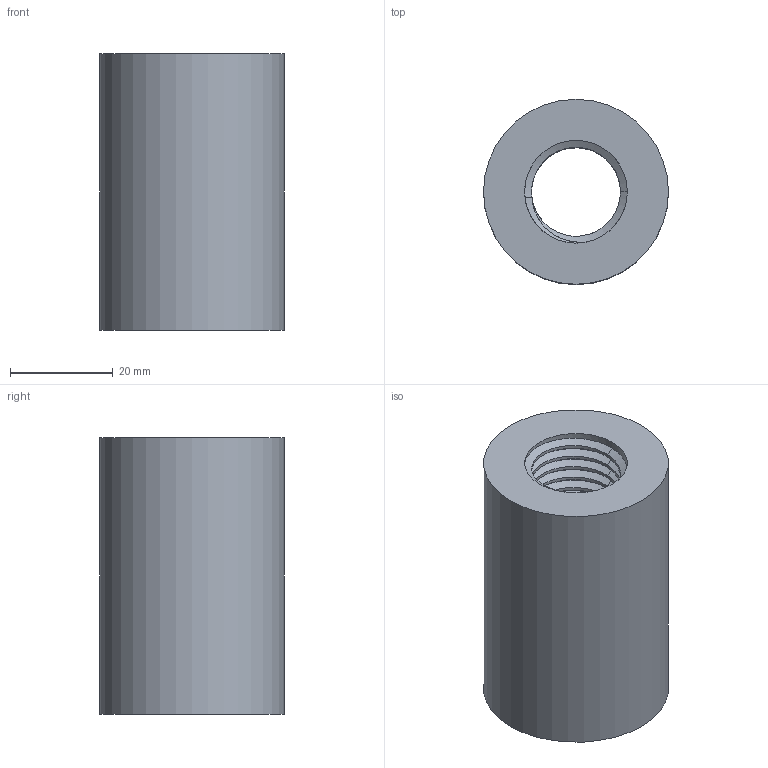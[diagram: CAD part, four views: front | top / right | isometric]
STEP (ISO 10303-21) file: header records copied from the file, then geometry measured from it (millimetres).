
FILE_DESCRIPTION(('Mechanical CAD reference from nasji.com'),'2;1');
FILE_NAME('NASJI.step','',(''),(''),'','NASJI distribution','');
FILE_SCHEMA(('AUTOMOTIVE_DESIGN { 1 0 10303 214 1 1 1 1 }'));
Length unit declared in the file: millimetre
Products named in the file (1): Open CASCADE STEP translator 7.8 208
Bounding box: 36 x 36 x 53.8 mm (x, y, z)
Volume: 40202.3 mm3; surface area: 12531.7 mm2
Topology: 1 solids, 1 shells, 335 faces, 955 edges, 622 vertices
Faces by surface type: bspline 309, cylinder 22, plane 4
Full cylindrical faces by diameter (mm): 20 x21, 36 x1
Entity records: 43618 total; most frequent: CARTESIAN_POINT 30183, ORIENTED_EDGE 1910, PCURVE 1910, DEFINITIONAL_REPRESENTATION 1910, B_SPLINE_CURVE_WITH_KNOTS 1850, EDGE_CURVE 955, SURFACE_CURVE 952, DIRECTION 789
